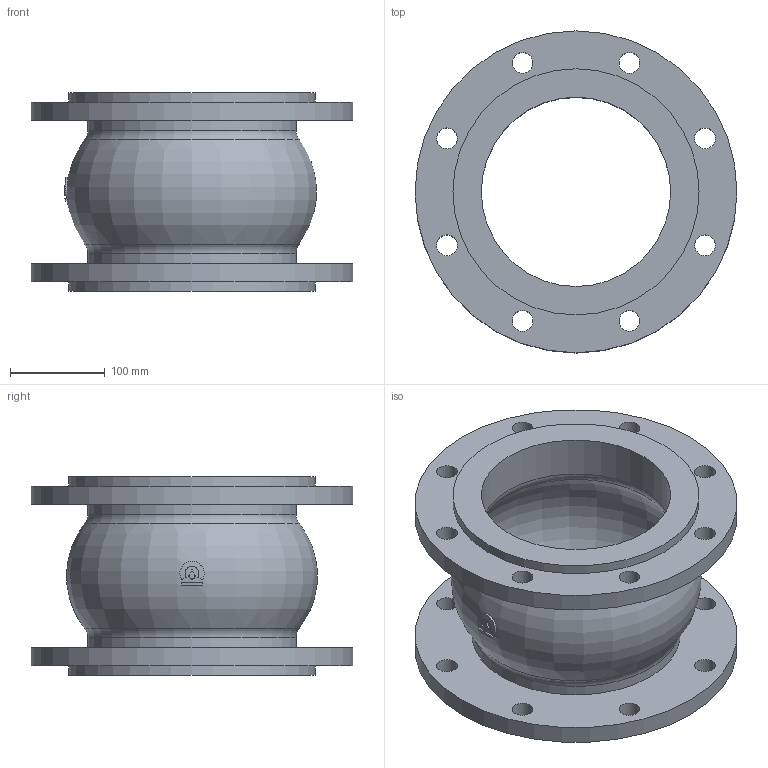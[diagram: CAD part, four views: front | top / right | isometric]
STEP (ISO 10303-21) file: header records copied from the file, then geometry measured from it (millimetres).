
FILE_DESCRIPTION(('STEP AP203'), '1');
FILE_NAME('Êîìïåíñàòîð KMS DN200 PN10_L210', '', ('UNSPECIFIED'), ('UNSPECIFIED'), 'ASCON STEP Converter 1.6', 'ASCON Math Kernel', '');
FILE_SCHEMA(('CONFIG_CONTROL_DESIGN'));
Length unit declared in the file: millimetre
Bounding box: 340 x 340 x 210 mm (x, y, z)
Volume: 3770659.9 mm3; surface area: 564887.7 mm2
Topology: 1 solids, 1 shells, 53 faces, 124 edges, 80 vertices
Faces by surface type: cylinder 31, plane 13, torus 9
Full cylindrical faces by diameter (mm): 22 x16, 200 x2, 220 x2, 260 x2, 340 x2
Entity records: 2681 total; most frequent: CARTESIAN_POINT 1044, DIRECTION 238, ORIENTED_EDGE 188, EDGE_LOOP 124, AXIS2_PLACEMENT_3D 112, EDGE_CURVE 94, VERTEX_POINT 80, FACE_BOUND 64
